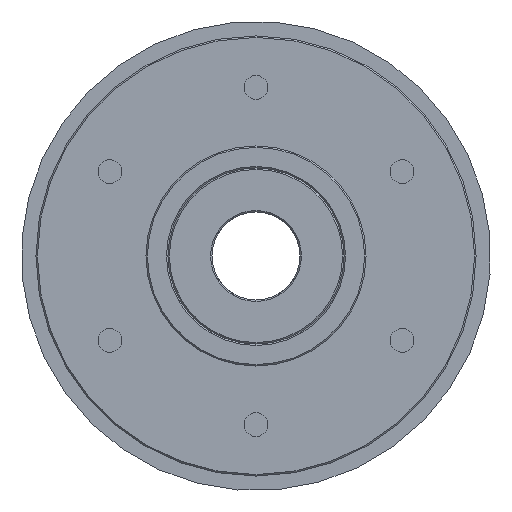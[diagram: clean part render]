
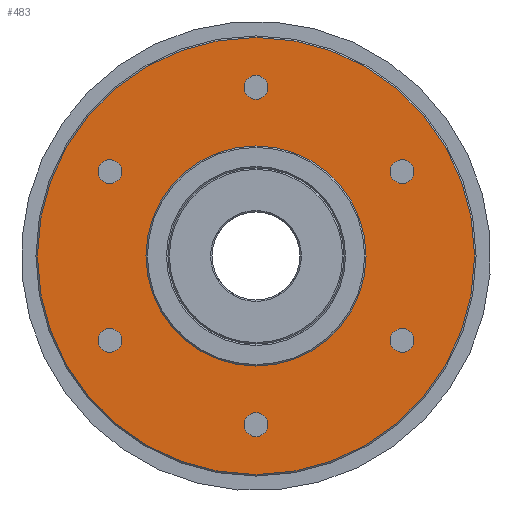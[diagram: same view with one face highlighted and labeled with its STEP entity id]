
A CAD part, left-side view. The second image highlights one B-rep face of the part: STEP entity #483.
In plain terms, the highlighted planar face has unit normal (-1, 0, 0).
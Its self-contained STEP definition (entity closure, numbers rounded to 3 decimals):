
#483 = ADVANCED_FACE( '', ( #964, #965, #966, #967, #968, #969, #970, #971 ), #972, .T. );
#964 = FACE_BOUND( '', #1534, .T. );
#965 = FACE_BOUND( '', #1535, .T. );
#966 = FACE_BOUND( '', #1536, .T. );
#967 = FACE_BOUND( '', #1537, .T. );
#968 = FACE_BOUND( '', #1538, .T. );
#969 = FACE_BOUND( '', #1539, .T. );
#970 = FACE_OUTER_BOUND( '', #1540, .T. );
#971 = FACE_BOUND( '', #1541, .T. );
#972 = PLANE( '', #1542 );
#1534 = EDGE_LOOP( '', ( #2171 ) );
#1535 = EDGE_LOOP( '', ( #2172 ) );
#1536 = EDGE_LOOP( '', ( #2173 ) );
#1537 = EDGE_LOOP( '', ( #2174 ) );
#1538 = EDGE_LOOP( '', ( #2175 ) );
#1539 = EDGE_LOOP( '', ( #2176 ) );
#1540 = EDGE_LOOP( '', ( #2177 ) );
#1541 = EDGE_LOOP( '', ( #2178 ) );
#1542 = AXIS2_PLACEMENT_3D( '', #2179, #2180, #2181 );
#2171 = ORIENTED_EDGE( '', *, *, #2918, .T. );
#2172 = ORIENTED_EDGE( '', *, *, #2919, .T. );
#2173 = ORIENTED_EDGE( '', *, *, #2920, .T. );
#2174 = ORIENTED_EDGE( '', *, *, #2811, .T. );
#2175 = ORIENTED_EDGE( '', *, *, #2921, .T. );
#2176 = ORIENTED_EDGE( '', *, *, #2896, .T. );
#2177 = ORIENTED_EDGE( '', *, *, #2922, .T. );
#2178 = ORIENTED_EDGE( '', *, *, #2803, .F. );
#2179 = CARTESIAN_POINT( '', ( 6.3, 0., 15. ) );
#2180 = DIRECTION( '', ( -1., 0., 0. ) );
#2181 = DIRECTION( '', ( 0., 0., 1. ) );
#2803 = EDGE_CURVE( '', #3151, #3151, #3152, .T. );
#2811 = EDGE_CURVE( '', #3165, #3165, #3166, .T. );
#2896 = EDGE_CURVE( '', #3301, #3301, #3302, .T. );
#2918 = EDGE_CURVE( '', #3333, #3333, #3334, .T. );
#2919 = EDGE_CURVE( '', #3335, #3335, #3336, .T. );
#2920 = EDGE_CURVE( '', #3337, #3337, #3338, .T. );
#2921 = EDGE_CURVE( '', #3339, #3339, #3340, .T. );
#2922 = EDGE_CURVE( '', #3341, #3341, #3342, .T. );
#3151 = VERTEX_POINT( '', #3643 );
#3152 = CIRCLE( '', #3644, 15. );
#3165 = VERTEX_POINT( '', #3659 );
#3166 = CIRCLE( '', #3660, 1.621 );
#3301 = VERTEX_POINT( '', #3918 );
#3302 = CIRCLE( '', #3919, 1.621 );
#3333 = VERTEX_POINT( '', #3954 );
#3334 = CIRCLE( '', #3955, 1.621 );
#3335 = VERTEX_POINT( '', #3956 );
#3336 = CIRCLE( '', #3957, 1.621 );
#3337 = VERTEX_POINT( '', #3958 );
#3338 = CIRCLE( '', #3959, 1.621 );
#3339 = VERTEX_POINT( '', #3960 );
#3340 = CIRCLE( '', #3961, 1.621 );
#3341 = VERTEX_POINT( '', #3962 );
#3342 = CIRCLE( '', #3963, 29.8 );
#3643 = CARTESIAN_POINT( '', ( 6.3, 0., 15. ) );
#3644 = AXIS2_PLACEMENT_3D( '', #4512, #4513, #4514 );
#3659 = CARTESIAN_POINT( '', ( 6.3, -21.322, -12.311 ) );
#3660 = AXIS2_PLACEMENT_3D( '', #4526, #4527, #4528 );
#3918 = CARTESIAN_POINT( '', ( 6.3, 0., 24.621 ) );
#3919 = AXIS2_PLACEMENT_3D( '', #4658, #4659, #4660 );
#3954 = CARTESIAN_POINT( '', ( 6.3, 21.322, 12.311 ) );
#3955 = AXIS2_PLACEMENT_3D( '', #4689, #4690, #4691 );
#3956 = CARTESIAN_POINT( '', ( 6.3, 21.322, -12.311 ) );
#3957 = AXIS2_PLACEMENT_3D( '', #4692, #4693, #4694 );
#3958 = CARTESIAN_POINT( '', ( 6.3, 0., -24.621 ) );
#3959 = AXIS2_PLACEMENT_3D( '', #4695, #4696, #4697 );
#3960 = CARTESIAN_POINT( '', ( 6.3, -21.322, 12.311 ) );
#3961 = AXIS2_PLACEMENT_3D( '', #4698, #4699, #4700 );
#3962 = CARTESIAN_POINT( '', ( 6.3, 0., 29.8 ) );
#3963 = AXIS2_PLACEMENT_3D( '', #4701, #4702, #4703 );
#4512 = CARTESIAN_POINT( '', ( 6.3, 0., 0. ) );
#4513 = DIRECTION( '', ( -1., 0., 0. ) );
#4514 = DIRECTION( '', ( 0., 0., 1. ) );
#4526 = CARTESIAN_POINT( '', ( 6.3, -19.919, -11.5 ) );
#4527 = DIRECTION( '', ( 1., 0., 0. ) );
#4528 = DIRECTION( '', ( 0., -0.866, -0.5 ) );
#4658 = CARTESIAN_POINT( '', ( 6.3, 0., 23. ) );
#4659 = DIRECTION( '', ( 1., 0., 0. ) );
#4660 = DIRECTION( '', ( 0., 0., 1. ) );
#4689 = CARTESIAN_POINT( '', ( 6.3, 19.919, 11.5 ) );
#4690 = DIRECTION( '', ( 1., 0., 0. ) );
#4691 = DIRECTION( '', ( 0., 0.866, 0.5 ) );
#4692 = CARTESIAN_POINT( '', ( 6.3, 19.919, -11.5 ) );
#4693 = DIRECTION( '', ( 1., 0., 0. ) );
#4694 = DIRECTION( '', ( 0., 0.866, -0.5 ) );
#4695 = CARTESIAN_POINT( '', ( 6.3, 0., -23. ) );
#4696 = DIRECTION( '', ( 1., 0., 0. ) );
#4697 = DIRECTION( '', ( 0., 0., -1. ) );
#4698 = CARTESIAN_POINT( '', ( 6.3, -19.919, 11.5 ) );
#4699 = DIRECTION( '', ( 1., 0., 0. ) );
#4700 = DIRECTION( '', ( 0., -0.866, 0.5 ) );
#4701 = CARTESIAN_POINT( '', ( 6.3, 0., 0. ) );
#4702 = DIRECTION( '', ( -1., 0., 0. ) );
#4703 = DIRECTION( '', ( 0., 0., 1. ) );
